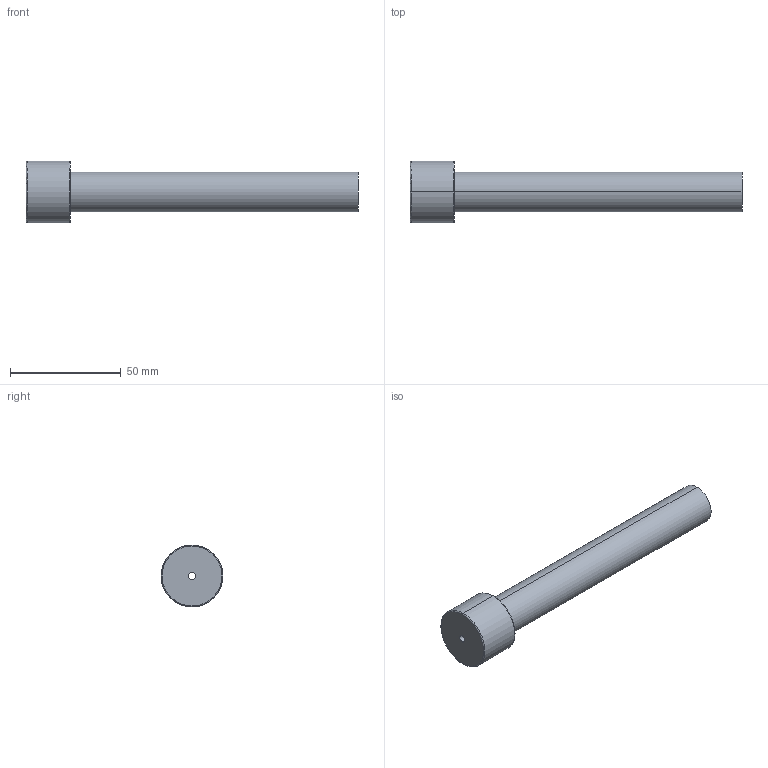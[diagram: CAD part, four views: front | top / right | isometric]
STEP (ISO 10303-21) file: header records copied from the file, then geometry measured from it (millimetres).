
FILE_DESCRIPTION(('CATIA V5 STEP Exchange'),'2;1');
FILE_NAME('C:\Users\Utente\Desktop\IO LAVORO\3D X SITO CF\X SITO\PLASTICA\3D files 367\367-18X150.stp','2021-03-24T15:48:47+00:00',('none'),('none'),'CATIA Version 5 Release 20 GA (IN-10)','CATIA V5 STEP AP203','none');
FILE_SCHEMA(('CONFIG_CONTROL_DESIGN'));
Length unit declared in the file: millimetre
Products named in the file (1): 367-18X150
Bounding box: 150 x 28 x 28 mm (x, y, z)
Volume: 38626.1 mm3; surface area: 13605.1 mm2
Topology: 1 solids, 1 shells, 13 faces, 42 edges, 32 vertices
Faces by surface type: torus 4, cylinder 4, plane 3, cone 2
Entity records: 608 total; most frequent: CARTESIAN_POINT 194, ORIENTED_EDGE 84, DIRECTION 60, AXIS2_PLACEMENT_3D 42, EDGE_CURVE 42, VERTEX_POINT 32, CIRCLE 28, EDGE_LOOP 16
